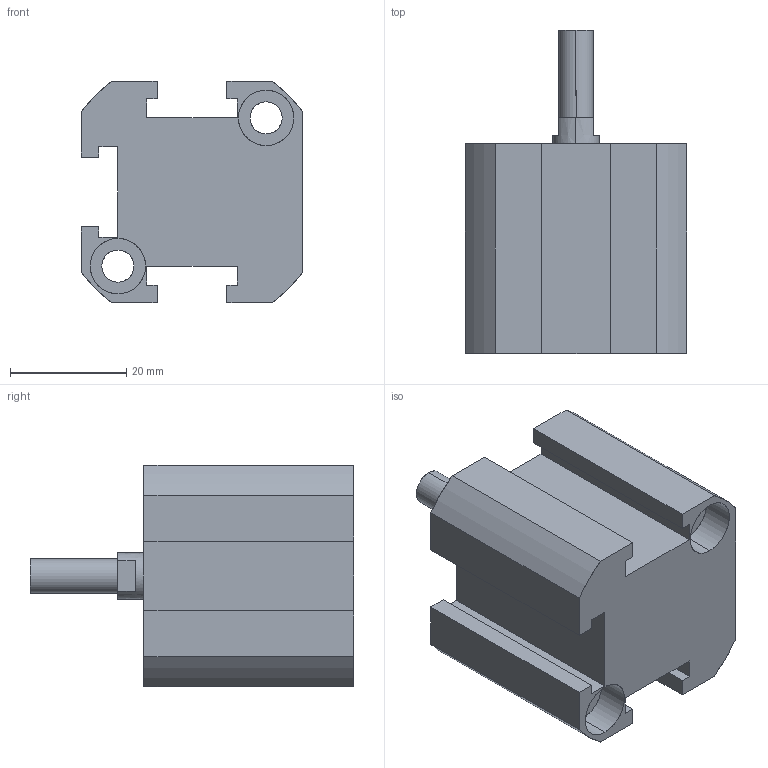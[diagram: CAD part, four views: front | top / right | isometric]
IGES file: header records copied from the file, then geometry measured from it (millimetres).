
Start section: SolidWorks IGES file using analytic representation for surfaces
Global section: file name: C:\Users\Toshiba\Desktop\XG#M1-20-10.IGS; native system: SolidWorks 2014; preprocessor: SolidWorks 2014; author: Toshiba; date: 160524.100702; units: millimetre
Bounding box: 38 x 55.5 x 38 mm (x, y, z)
Surface area: 11644.1 mm2 (no closed solid volume)
Topology: 0 solids, 0 shells, 85 faces, 1241 edges, 1239 vertices
Faces by surface type: bspline 46, revolution 39
